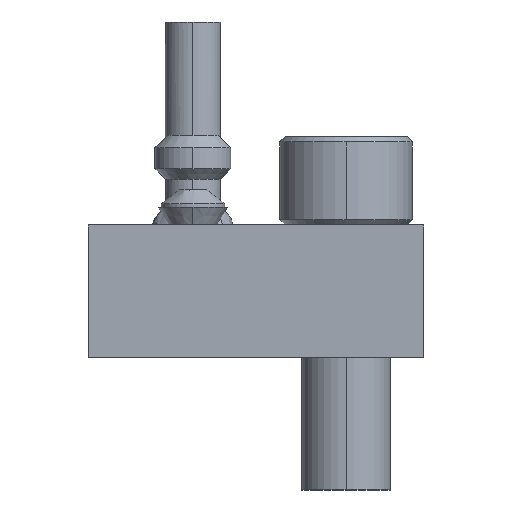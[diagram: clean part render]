
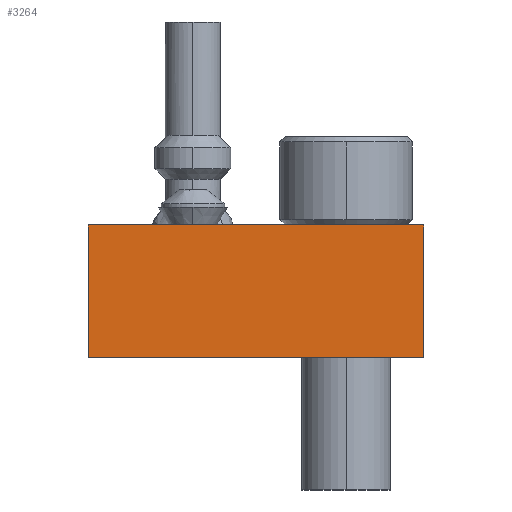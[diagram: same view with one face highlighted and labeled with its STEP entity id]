
A CAD part, front view. The second image highlights one B-rep face of the part: STEP entity #3264.
In plain terms, the highlighted planar face has unit normal (0, 1, 0).
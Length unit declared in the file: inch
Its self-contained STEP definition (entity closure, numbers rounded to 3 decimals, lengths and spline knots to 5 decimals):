
#84 = LINE ( 'NONE', #1807, #2680 ) ;
#373 = DIRECTION ( 'NONE',  ( 0., 0., 1. ) ) ;
#508 = EDGE_CURVE ( 'NONE', #4088, #1844, #2515, .T. ) ;
#592 = VECTOR ( 'NONE', #827, 39.37008 ) ;
#775 = ORIENTED_EDGE ( 'NONE', *, *, #3092, .F. ) ;
#827 = DIRECTION ( 'NONE',  ( 0., 0., -1. ) ) ;
#979 = VECTOR ( 'NONE', #2511, 39.37008 ) ;
#1141 = ORIENTED_EDGE ( 'NONE', *, *, #3100, .T. ) ;
#1181 = CARTESIAN_POINT ( 'NONE',  ( 2.5861, 0.25078, 3.51107 ) ) ;
#1563 = AXIS2_PLACEMENT_3D ( 'NONE', #1985, #3412, #373 ) ;
#1567 = CARTESIAN_POINT ( 'NONE',  ( 2.5861, 0.25078, 4.26107 ) ) ;
#1575 = EDGE_LOOP ( 'NONE', ( #2941, #1141, #3999, #775 ) ) ;
#1807 = CARTESIAN_POINT ( 'NONE',  ( 2.5861, 0.25078, 4.26107 ) ) ;
#1844 = VERTEX_POINT ( 'NONE', #3450 ) ;
#1985 = CARTESIAN_POINT ( 'NONE',  ( 0.6861, 0.25078, 4.26107 ) ) ;
#1996 = VECTOR ( 'NONE', #2133, 39.37008 ) ;
#2074 = FACE_OUTER_BOUND ( 'NONE', #1575, .T. ) ;
#2112 = LINE ( 'NONE', #3381, #1996 ) ;
#2133 = DIRECTION ( 'NONE',  ( 0., 0., 1. ) ) ;
#2338 = PLANE ( 'NONE',  #1563 ) ;
#2465 = LINE ( 'NONE', #3126, #979 ) ;
#2511 = DIRECTION ( 'NONE',  ( -1., 0., 0. ) ) ;
#2515 = LINE ( 'NONE', #3851, #592 ) ;
#2680 = VECTOR ( 'NONE', #3152, 39.37008 ) ;
#2941 = ORIENTED_EDGE ( 'NONE', *, *, #4200, .F. ) ;
#3092 = EDGE_CURVE ( 'NONE', #3535, #4088, #84, .T. ) ;
#3100 = EDGE_CURVE ( 'NONE', #3620, #1844, #2465, .T. ) ;
#3126 = CARTESIAN_POINT ( 'NONE',  ( 0.6861, 0.25078, 3.51107 ) ) ;
#3152 = DIRECTION ( 'NONE',  ( -1., 0., 0. ) ) ;
#3264 = ADVANCED_FACE ( 'NONE', ( #2074 ), #2338, .T. ) ;
#3381 = CARTESIAN_POINT ( 'NONE',  ( 2.5861, 0.25078, 4.26107 ) ) ;
#3412 = DIRECTION ( 'NONE',  ( 0., 1., 0. ) ) ;
#3450 = CARTESIAN_POINT ( 'NONE',  ( 0.6861, 0.25078, 3.51107 ) ) ;
#3535 = VERTEX_POINT ( 'NONE', #1567 ) ;
#3620 = VERTEX_POINT ( 'NONE', #1181 ) ;
#3851 = CARTESIAN_POINT ( 'NONE',  ( 0.6861, 0.25078, 4.26107 ) ) ;
#3999 = ORIENTED_EDGE ( 'NONE', *, *, #508, .F. ) ;
#4088 = VERTEX_POINT ( 'NONE', #4297 ) ;
#4200 = EDGE_CURVE ( 'NONE', #3620, #3535, #2112, .T. ) ;
#4297 = CARTESIAN_POINT ( 'NONE',  ( 0.6861, 0.25078, 4.26107 ) ) ;
